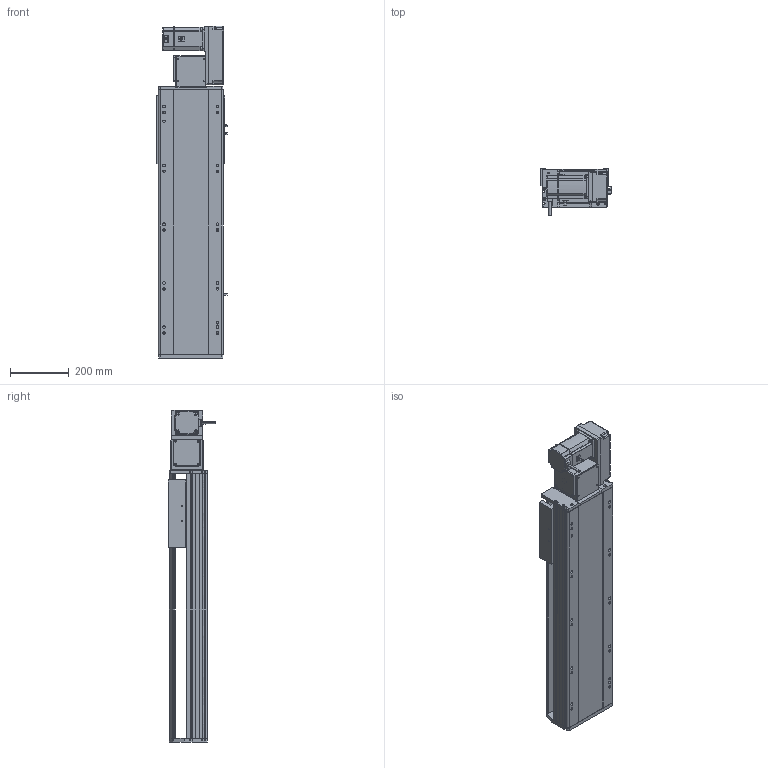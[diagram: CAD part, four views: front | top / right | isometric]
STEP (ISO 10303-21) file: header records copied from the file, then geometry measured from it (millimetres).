
FILE_DESCRIPTION (( 'STEP AP214' ), '1' );
FILE_NAME ('RTB22S-XX-550-R-M75-C4.STEP', '2025-12-12T07:15:38', ( '' ), ( '' ), 'SwSTEP 2.0', 'SolidWorks 2018', '' );
FILE_SCHEMA (( 'AUTOMOTIVE_DESIGN' ));
Length unit declared in the file: millimetre
Products named in the file (14): RTH22-GY-013外置感应片^RTB22S-XX-XX-R-M75-C4; OMRON EE-SX672 传感器^RTB22S-XX-XX-R-M75-C4; RTB22S-L-004賑釱^RTB22S-XX-XX-R-M75-C4; RTB22S-GY-001耜裔^RTB22S-XX-XX-R-M75-C4; RTB22S-XX-550-R-M75-C4; RTB22S-GY-007奻裔^RTB22S-XX-XX-R-M75-C4; RTB22S-GY-017P^RTB22S-R-々湍釱蚾饜_RTB22S-XX-XX-R-M75-C4; RTB22S-R-々湍釱蚾饜^RTB22S-XX-XX-R-M75-C4; RTB22S-L-011菁釱^RTB22S-XX-XX-R-M75-C4; 750W萇儂^RTB22S-XX-XX-R-M75-C4; RTB22S-GY-018P^RTB22S-R-々湍釱蚾饜_RTB22S-XX-XX-R-M75-C4; RTB22S-GY-014--々湍釱^RTB22S-R-々湍釱蚾饜_RTB22S-XX-XX-R-M75-C4; RTB22S-GY-005P^RTB22S-R-々湍釱蚾饜_RTB22S-XX-XX-R-M75-C4; RTB22S-GY-008-M75--萇儂啣^RTB22S-R-々湍釱蚾饜_RTB22S-XX-XX-R-M75-C4
Assembly tree (16 placements, depth 3):
  RTB22S-XX-550-R-M75-C4
    RTB22S-L-011菁釱^RTB22S-XX-XX-R-M75-C4
    RTB22S-GY-001耜裔^RTB22S-XX-XX-R-M75-C4
    750W萇儂^RTB22S-XX-XX-R-M75-C4
    RTB22S-GY-007奻裔^RTB22S-XX-XX-R-M75-C4
    RTB22S-L-004賑釱^RTB22S-XX-XX-R-M75-C4
    RTH22-GY-013外置感应片^RTB22S-XX-XX-R-M75-C4
    OMRON EE-SX672 传感器^RTB22S-XX-XX-R-M75-C4  x3
    RTB22S-R-々湍釱蚾饜^RTB22S-XX-XX-R-M75-C4
      RTB22S-GY-014--々湍釱^RTB22S-R-々湍釱蚾饜_RTB22S-XX-XX-R-M75-C4
      RTB22S-GY-017P^RTB22S-R-々湍釱蚾饜_RTB22S-XX-XX-R-M75-C4  x2
      RTB22S-GY-005P^RTB22S-R-々湍釱蚾饜_RTB22S-XX-XX-R-M75-C4
      RTB22S-GY-008-M75--萇儂啣^RTB22S-R-々湍釱蚾饜_RTB22S-XX-XX-R-M75-C4
      RTB22S-GY-018P^RTB22S-R-々湍釱蚾饜_RTB22S-XX-XX-R-M75-C4
Bounding box: 238.5 x 162.7 x 1129 mm (x, y, z)
Volume: 16048101.1 mm3; surface area: 1691634.9 mm2
Topology: 15 solids, 15 shells, 1929 faces, 5236 edges, 3362 vertices
Faces by surface type: plane 909, cylinder 586, bspline 296, cone 126, sphere 8, torus 4
Entity records: 50794 total; most frequent: CARTESIAN_POINT 14728, ORIENTED_EDGE 7284, DIRECTION 6956, EDGE_CURVE 3642, AXIS2_PLACEMENT_3D 2434, VERTEX_POINT 2366, LINE 2088, VECTOR 2088
